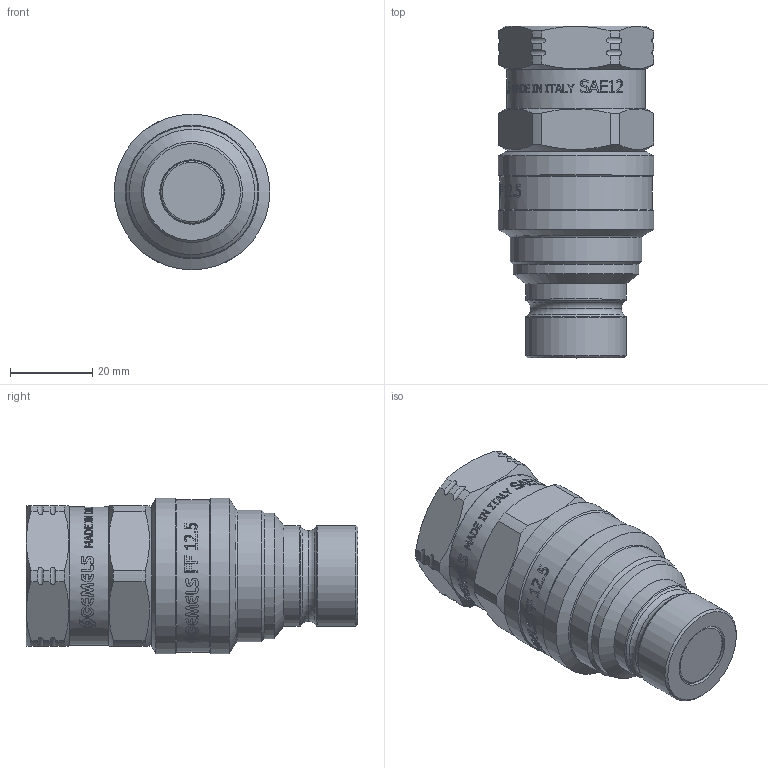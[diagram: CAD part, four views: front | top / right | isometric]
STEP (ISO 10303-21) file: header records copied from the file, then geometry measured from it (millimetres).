
FILE_DESCRIPTION(/* description */ (''),/* implementation_level */ '2;1');
FILE_NAME(/* name */ 'NC05S040000.stp',/* time_stamp */ '2024-11-19T11:37:26+01:00',/* author */ ('thomas.belotti'),/* organization */ (''),/* preprocessor_version */ 'ST-DEVELOPER v20',/* originating_system */ 'Autodesk Inventor 2024',/* authorisation */ '');
FILE_SCHEMA (('AUTOMOTIVE_DESIGN { 1 0 10303 214 3 1 1 }'));
Length unit declared in the file: millimetre
Products named in the file (1): Parte17
Bounding box: 37.8 x 80.5 x 37.8 mm (x, y, z)
Volume: 55514.3 mm3; surface area: 12739.1 mm2
Topology: 1 solids, 1 shells, 1144 faces, 3263 edges, 2165 vertices
Faces by surface type: bspline 802, plane 213, cylinder 91, cone 19, torus 19
Full cylindrical faces by diameter (mm): 15.65 x1, 22 x1, 24.5 x2, 24.91 x1, 30.45 x1, 32 x2, 32.3 x1, 33.5 x1, 37 x1, 37.7 x1, 37.8 x1
Entity records: 50717 total; most frequent: CARTESIAN_POINT 25357, ORIENTED_EDGE 6526, EDGE_CURVE 3263, DIRECTION 2449, VERTEX_POINT 2164, B_SPLINE_CURVE_WITH_KNOTS 1766, EDGE_LOOP 1199, LINE 1183
